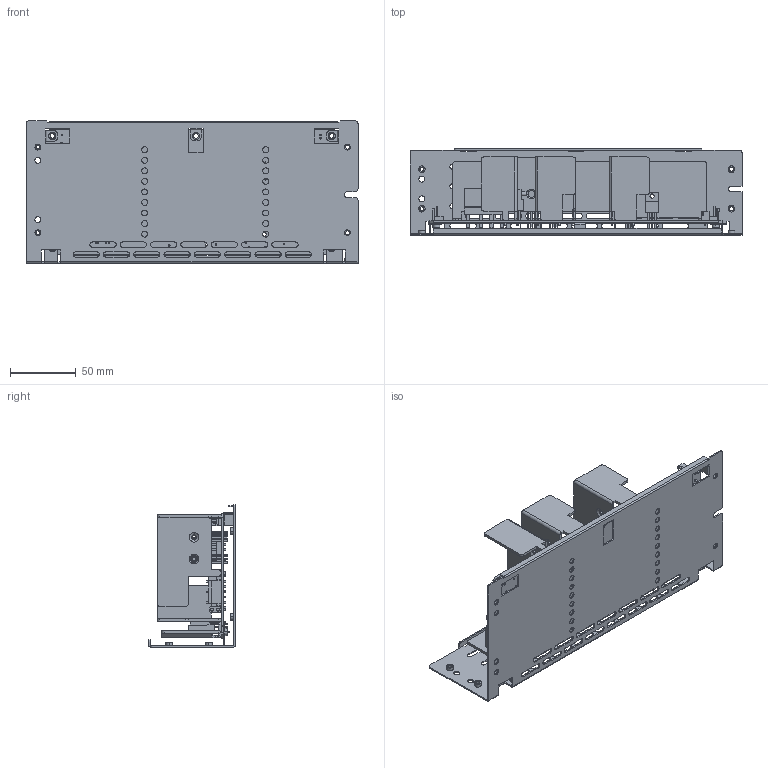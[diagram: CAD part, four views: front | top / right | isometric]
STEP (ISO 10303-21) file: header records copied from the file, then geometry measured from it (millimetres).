
FILE_DESCRIPTION((''),'2;1');
FILE_NAME('300W_ASM','2019-07-18T',('ROCK.WEN'),(''),'PRO/ENGINEER BY PARAMETRIC TECHNOLOGY CORPORATION, 2015240','PRO/ENGINEER BY PARAMETRIC TECHNOLOGY CORPORATION, 2015240','');
FILE_SCHEMA(('CONFIG_CONTROL_DESIGN','SHAPE_APPEARANCE_LAYERS_GROUPS'));
Length unit declared in the file: millimetre
Products named in the file (18): CHASSIS; PWB; HSK3; PIN; Q3; HSK3_ASM; HSK2; 3105456700; HSK2_ASM; HSK1; BD1; HSK1_ASM; B2B-XH-A; B5P-VH; B6P-VH; B7P-VH; PWB_ASM; 300W_ASM
Assembly tree (27 placements, depth 4):
  300W_ASM
    CHASSIS
    PWB_ASM
      PWB
      HSK3_ASM  x2
        HSK3
        PIN
        Q3
      HSK2_ASM  x2
        HSK2
        PIN
        Q3
        3105456700
      HSK1_ASM
        HSK1
        BD1
        Q3  x2
      B2B-XH-A
      B5P-VH
      B6P-VH
      B7P-VH
Bounding box: 252 x 65.4 x 107.9 mm (x, y, z)
Volume: 125401.7 mm3; surface area: 185380.6 mm2
Topology: 32 solids, 32 shells, 2000 faces, 5336 edges, 3460 vertices
Faces by surface type: plane 1112, cylinder 846, cone 42
Entity records: 63676 total; most frequent: DIRECTION 8995, CARTESIAN_POINT 8583, ORIENTED_EDGE 8454, EDGE_CURVE 4227, PRESENTATION_STYLE_ASSIGNMENT 3895, STYLED_ITEM 3715, CURVE_STYLE 3709, AXIS2_PLACEMENT_3D 3142
